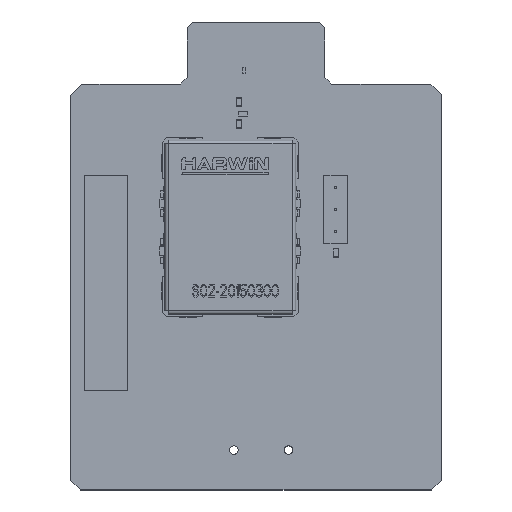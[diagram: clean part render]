
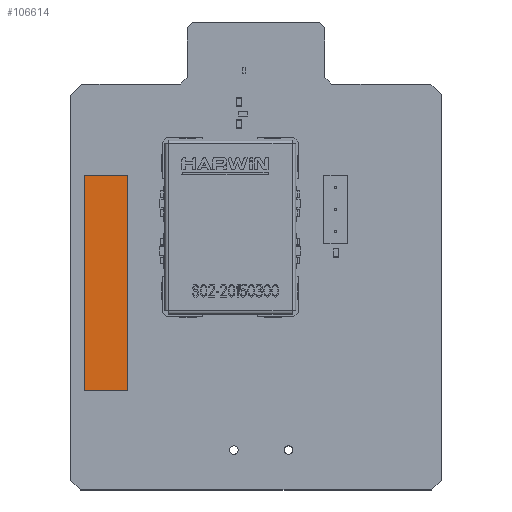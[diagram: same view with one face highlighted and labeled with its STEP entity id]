
A CAD part, top view. The second image highlights one B-rep face of the part: STEP entity #106614.
In plain terms, the highlighted planar face has unit normal (0, 0, 1).
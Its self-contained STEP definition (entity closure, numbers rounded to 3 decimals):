
#106485 = VERTEX_POINT('',#106486);
#106486 = CARTESIAN_POINT('',(-2.5,-12.5,0.01));
#106492 = EDGE_CURVE('',#106485,#106493,#106495,.T.);
#106493 = VERTEX_POINT('',#106494);
#106494 = CARTESIAN_POINT('',(2.5,-12.5,0.01));
#106495 = LINE('',#106496,#106497);
#106496 = CARTESIAN_POINT('',(-2.5,-12.5,0.01));
#106497 = VECTOR('',#106498,1.);
#106498 = DIRECTION('',(1.,0.,0.));
#106523 = EDGE_CURVE('',#106493,#106524,#106526,.T.);
#106524 = VERTEX_POINT('',#106525);
#106525 = CARTESIAN_POINT('',(2.5,12.5,0.01));
#106526 = LINE('',#106527,#106528);
#106527 = CARTESIAN_POINT('',(2.5,-12.5,0.01));
#106528 = VECTOR('',#106529,1.);
#106529 = DIRECTION('',(0.,1.,0.));
#106554 = EDGE_CURVE('',#106524,#106555,#106557,.T.);
#106555 = VERTEX_POINT('',#106556);
#106556 = CARTESIAN_POINT('',(-2.5,12.5,0.01));
#106557 = LINE('',#106558,#106559);
#106558 = CARTESIAN_POINT('',(2.5,12.5,0.01));
#106559 = VECTOR('',#106560,1.);
#106560 = DIRECTION('',(-1.,0.,0.));
#106585 = EDGE_CURVE('',#106555,#106485,#106586,.T.);
#106586 = LINE('',#106587,#106588);
#106587 = CARTESIAN_POINT('',(-2.5,12.5,0.01));
#106588 = VECTOR('',#106589,1.);
#106589 = DIRECTION('',(0.,-1.,0.));
#106614 = ADVANCED_FACE('',(#106615),#106621,.T.);
#106615 = FACE_BOUND('',#106616,.T.);
#106616 = EDGE_LOOP('',(#106617,#106618,#106619,#106620));
#106617 = ORIENTED_EDGE('',*,*,#106492,.T.);
#106618 = ORIENTED_EDGE('',*,*,#106523,.T.);
#106619 = ORIENTED_EDGE('',*,*,#106554,.T.);
#106620 = ORIENTED_EDGE('',*,*,#106585,.T.);
#106621 = PLANE('',#106622);
#106622 = AXIS2_PLACEMENT_3D('',#106623,#106624,#106625);
#106623 = CARTESIAN_POINT('',(0.,0.,
    0.01));
#106624 = DIRECTION('',(0.,0.,1.));
#106625 = DIRECTION('',(1.,0.,-0.));
